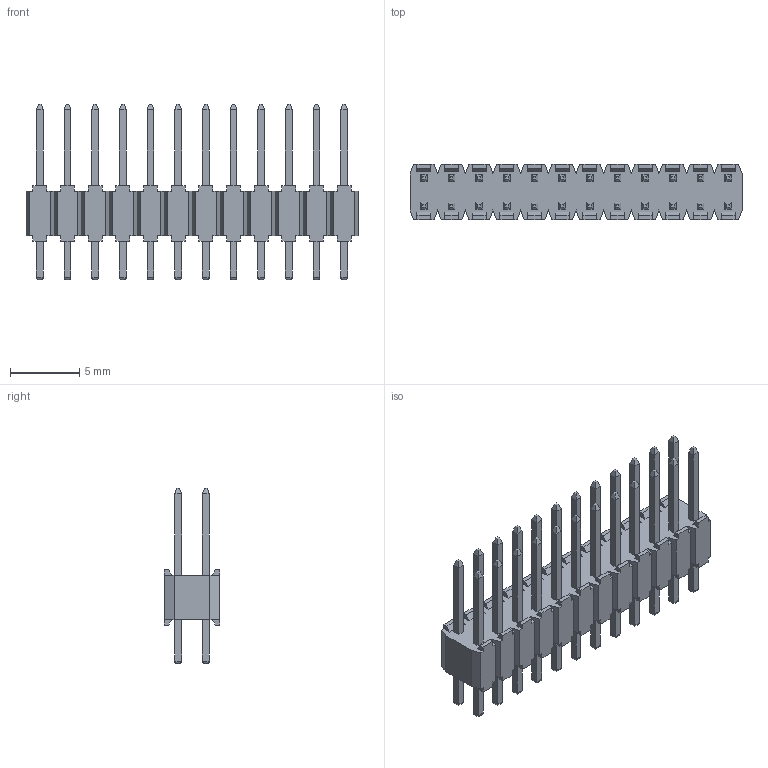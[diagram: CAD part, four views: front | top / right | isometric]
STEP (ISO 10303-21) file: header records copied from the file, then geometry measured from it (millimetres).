
FILE_DESCRIPTION(/* description */ (''),/* implementation_level */ '2;1');
FILE_NAME(/* name */ '951424-8060806-AR',/* time_stamp */ '2007-03-14T10:56:10+01:00',/* author */ (''),/* organization */ (''),/* preprocessor_version */ 'ST-DEVELOPER v9',/* originating_system */ 'UGS - NX 4.0',/* authorisation */ '');
FILE_SCHEMA (('AUTOMOTIVE_DESIGN { 1 0 10303 214 1 1 1 1 }'));
Length unit declared in the file: millimetre
Products named in the file (1): 951424-8060806-AR
Bounding box: 24 x 4 x 12.7 mm (x, y, z)
Volume: 357.4 mm3; surface area: 917.2 mm2
Topology: 1 solids, 1 shells, 700 faces, 1758 edges, 1108 vertices
Faces by surface type: plane 604, cylinder 96
Entity records: 20346 total; most frequent: CARTESIAN_POINT 3567, ORIENTED_EDGE 3516, DIRECTION 3256, EDGE_CURVE 1758, LINE 1662, VECTOR 1662, VERTEX_POINT 1108, AXIS2_PLACEMENT_3D 797
